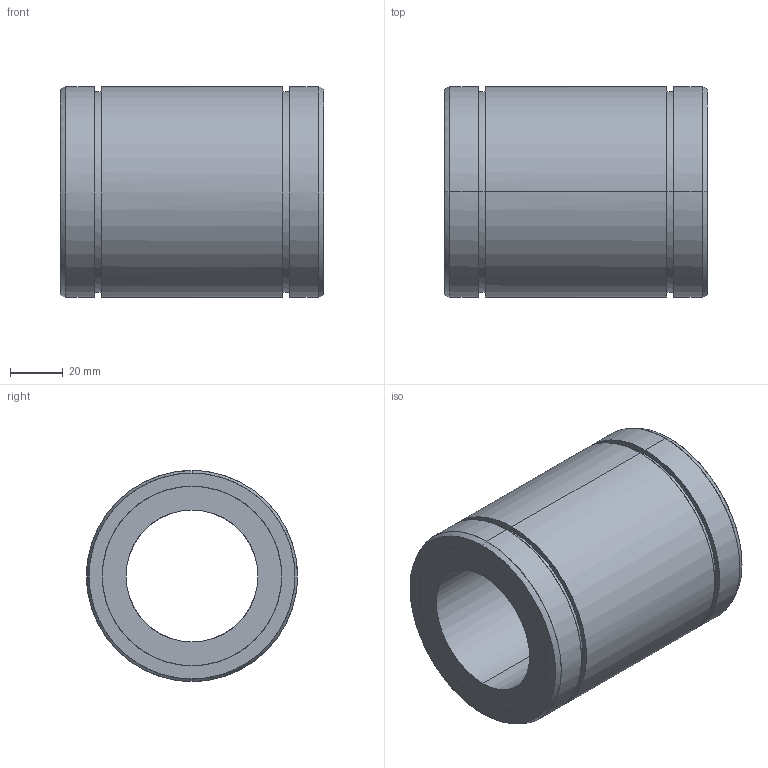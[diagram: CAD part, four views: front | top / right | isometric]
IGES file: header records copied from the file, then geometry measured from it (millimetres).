
Global section: file name: No Iges File Name specified; native system: AutoDesk Inventor R10; preprocessor: AutoDesk Inventor Iges Exporter R10; author: No Author specified; organization: No Organization specified; date: 20101208.095157; units: millimetre
Bounding box: 100 x 80 x 80 mm (x, y, z)
Surface area: 48488.1 mm2 (no closed solid volume)
Topology: 0 solids, 0 shells, 28 faces, 184 edges, 184 vertices
Faces by surface type: bspline 28
